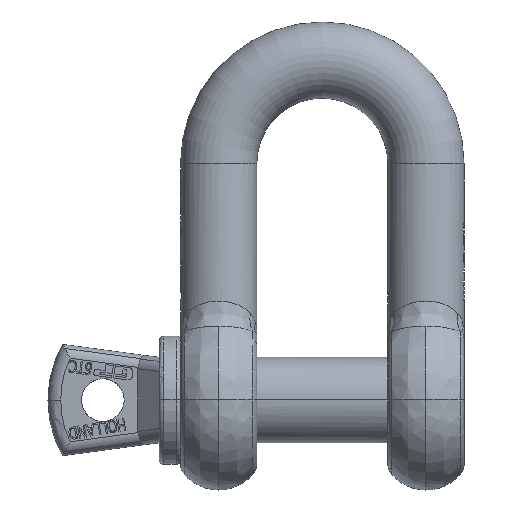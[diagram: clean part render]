
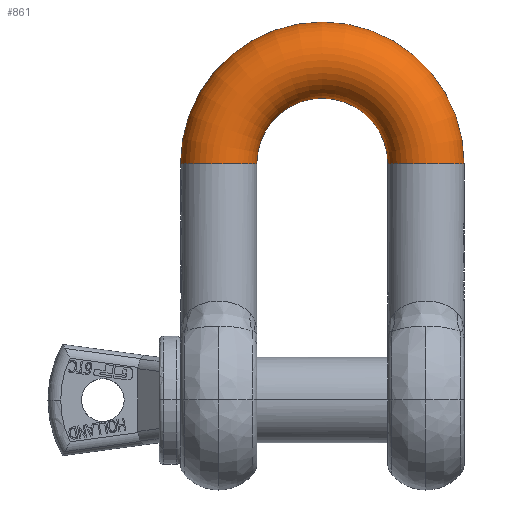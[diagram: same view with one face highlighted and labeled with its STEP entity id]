
A CAD part, top view. The second image highlights one B-rep face of the part: STEP entity #861.
In plain terms, the highlighted toroidal (fillet/blend) face has major radius 34 mm and minor radius 12.5 mm.
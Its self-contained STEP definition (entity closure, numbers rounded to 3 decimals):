
#861=ADVANCED_FACE('',(#2185),#2186,.T.);
#2185=FACE_OUTER_BOUND('',#4940,.T.);
#2186=TOROIDAL_SURFACE('',#4941,34.0,12.5);
#4940=EDGE_LOOP('',(#9168,#9169,#9170,#9171));
#4941=AXIS2_PLACEMENT_3D('',#9172,#9173,#9174);
#9168=ORIENTED_EDGE('',*,*,#14283,.F.);
#9169=ORIENTED_EDGE('',*,*,#14347,.F.);
#9170=ORIENTED_EDGE('',*,*,#14281,.F.);
#9171=ORIENTED_EDGE('',*,*,#14061,.T.);
#9172=CARTESIAN_POINT('',(0.0,77.5,0.0));
#9173=DIRECTION('',(0.0,0.0,-1.0));
#9174=DIRECTION('',(-1.0,0.0,0.0));
#14061=EDGE_CURVE('',#16628,#16630,#16895,.F.);
#14281=EDGE_CURVE('',#16628,#17214,#17215,.F.);
#14283=EDGE_CURVE('',#17216,#16630,#17218,.T.);
#14347=EDGE_CURVE('',#17214,#17216,#17304,.T.);
#16628=VERTEX_POINT('',#21069);
#16630=VERTEX_POINT('',#21072);
#16895=CIRCLE('',#22182,12.5);
#17214=VERTEX_POINT('',#22878);
#17215=CIRCLE('',#22879,21.5);
#17216=VERTEX_POINT('',#22880);
#17218=CIRCLE('',#22882,46.5);
#17304=CIRCLE('',#23058,12.5);
#21069=CARTESIAN_POINT('',(21.5,77.5,0.0));
#21072=CARTESIAN_POINT('',(46.5,77.5,0.));
#22182=AXIS2_PLACEMENT_3D('',#30960,#30961,#30962);
#22878=CARTESIAN_POINT('',(-21.5,77.5,0.0));
#22879=AXIS2_PLACEMENT_3D('',#31035,#31036,#31037);
#22880=CARTESIAN_POINT('',(-46.5,77.5,0.));
#22882=AXIS2_PLACEMENT_3D('',#31041,#31042,#31043);
#23058=AXIS2_PLACEMENT_3D('',#31074,#31075,#31076);
#30960=CARTESIAN_POINT('',(34.0,77.5,0.0));
#30961=DIRECTION('',(0.0,-1.0,0.0));
#30962=DIRECTION('',(1.0,0.0,0.0));
#31035=CARTESIAN_POINT('',(0.0,77.5,0.));
#31036=DIRECTION('',(0.0,0.0,-1.0));
#31037=DIRECTION('',(1.0,0.0,0.0));
#31041=CARTESIAN_POINT('',(0.0,77.5,0.0));
#31042=DIRECTION('',(0.0,0.0,-1.0));
#31043=DIRECTION('',(1.0,0.0,0.0));
#31074=CARTESIAN_POINT('',(-34.0,77.5,0.0));
#31075=DIRECTION('',(0.0,-1.0,0.0));
#31076=DIRECTION('',(1.0,0.0,0.0));
